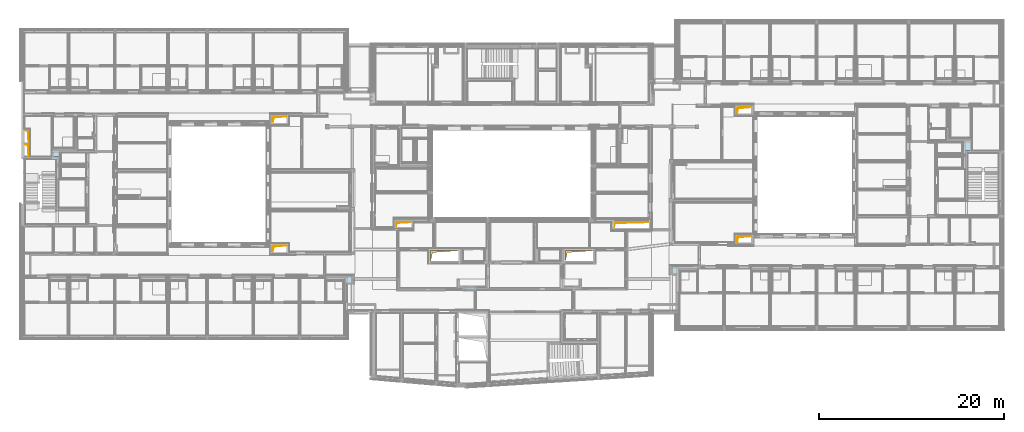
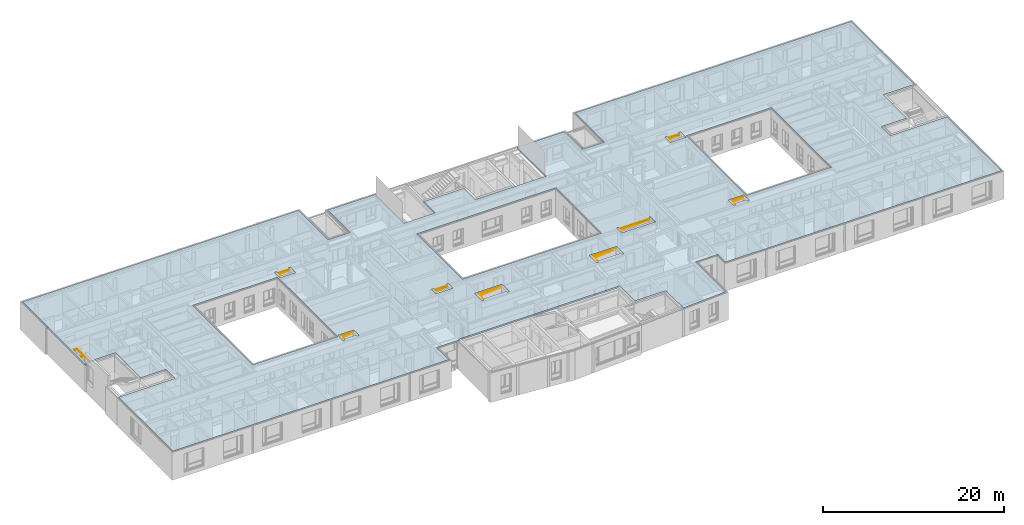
# One storey, part 8 of 222: 10 windows, 1 slab, 10 openings.
"""IFC4 building model written with IfcOpenShell, lengths in metres."""

import ifcopenshell
import ifcopenshell.guid

model = None  # the IFC model being written
_history = None  # IfcOwnerHistory: only IFC2X3 demands one
_inside = {}  # id of a spatial element -> (the spatial element, [elements in it])
_under = {}  # id of a project, library or spatial element -> (it, [spatial elements below it])
_declared = {}  # id of a project -> (the project, [libraries it declares])
_typed = {}  # id of a type object -> (the type object, [elements of that type])
_made_of = {}  # id of a material, layer set ... -> (it, [elements and type objects made of it])


def new_model(schema):
    """Start an empty IFC model of exactly this schema.

    Asked for "IFC4X3", IfcOpenShell would pick the latest addendum, in which some entities
    have other attributes; the version numbers below select the first issue.
    IFC2X3 requires an IfcOwnerHistory on every rooted entity: one is made here for all.
    """
    global model, _history
    if schema == "IFC4X3":
        model = ifcopenshell.file(schema_version=(4, 3, 0, 0))
    else:
        model = ifcopenshell.file(schema=schema)
    _inside.clear()
    _under.clear()
    _declared.clear()
    _typed.clear()
    _made_of.clear()
    _history = None
    if model.schema == "IFC2X3":
        org = make("IfcOrganization", Name="unknown")
        user = make(
            "IfcPersonAndOrganization",
            ThePerson=make("IfcPerson", FamilyName="unknown"),
            TheOrganization=org,
        )
        app = make(
            "IfcApplication",
            ApplicationDeveloper=org,
            Version="unknown",
            ApplicationFullName="unknown",
            ApplicationIdentifier="unknown",
        )
        _history = make(
            "IfcOwnerHistory",
            OwningUser=user,
            OwningApplication=app,
            ChangeAction="ADDED",
            CreationDate=0,
        )
    return model


def make(cls, **values):
    """One entity of the class cls with the attributes given. An attribute that is None is left unset."""
    return model.create_entity(
        cls, **{name: value for name, value in values.items() if value is not None}
    )


def entity(cls, *values):
    """Any entity or typed value of the class cls, its attributes in the order of the schema. None: left unset."""
    e = model.create_entity(cls)
    for i, value in enumerate(values):
        if value is not None:
            e[i] = value
    return e


def rooted(cls, **values):
    """An entity with a GlobalId (a new one), such as an element, a storey or a relation."""
    return make(cls, GlobalId=ifcopenshell.guid.new(), OwnerHistory=_history, **values)


def si_unit(unit_type, name, prefix=None):
    """IfcSIUnit, for example si_unit("LENGTHUNIT", "METRE", prefix="MILLI")."""
    return make("IfcSIUnit", UnitType=unit_type, Prefix=prefix, Name=name)


def converted_unit(unit_type, name, factor, base, dimensions=None, offset=None):
    """IfcConversionBasedUnit, such as the inch: factor (a typed value) times the base unit."""
    return make(
        "IfcConversionBasedUnit"
        if offset is None
        else "IfcConversionBasedUnitWithOffset",
        ConversionOffset=offset,
        Dimensions=None
        if dimensions is None
        else entity("IfcDimensionalExponents", *dimensions),
        UnitType=unit_type,
        Name=name,
        ConversionFactor=make(
            "IfcMeasureWithUnit", ValueComponent=factor, UnitComponent=base
        ),
    )


def derived_unit(unit_type, elements):
    """IfcDerivedUnit: a product of units, each with its exponent."""
    return make(
        "IfcDerivedUnit",
        Elements=[
            make("IfcDerivedUnitElement", Unit=unit, Exponent=power)
            for unit, power in elements
        ],
        UnitType=unit_type,
    )


def assignment(units):
    """IfcUnitAssignment: the units of a project."""
    return None if units is None else make("IfcUnitAssignment", Units=units)


def point(xyz):
    """IfcCartesianPoint."""
    return None if xyz is None else make("IfcCartesianPoint", Coordinates=xyz)


def direction(xyz):
    """IfcDirection."""
    return None if xyz is None else make("IfcDirection", DirectionRatios=xyz)


def frame(location, z_axis=None, x_axis=None):
    """IfcAxis2Placement3D, a coordinate frame: its origin and axes. An axis left out is left unset."""
    return make(
        "IfcAxis2Placement3D",
        Location=point(location),
        Axis=direction(z_axis),
        RefDirection=direction(x_axis),
    )


def frame_2d(location, x_axis=None):
    """IfcAxis2Placement2D, a coordinate frame in the plane: its origin and x axis."""
    return make(
        "IfcAxis2Placement2D", Location=point(location), RefDirection=direction(x_axis)
    )


def origin():
    """The frame at (0, 0, 0) with its axes left unset."""
    return frame((0.0, 0.0, 0.0))


def origin_with_axes():
    """The frame at (0, 0, 0) with the z axis (0, 0, 1) and the x axis (1, 0, 0) written out."""
    return frame((0.0, 0.0, 0.0), z_axis=(0.0, 0.0, 1.0), x_axis=(1.0, 0.0, 0.0))


def place(relative_to, where):
    """IfcLocalPlacement: puts the frame where relative to a parent placement (None: the world)."""
    return make(
        "IfcLocalPlacement", PlacementRelTo=relative_to, RelativePlacement=where
    )


def context(
    kind, dimensions, precision=None, world=None, true_north=None, identifier=None
):
    """IfcGeometricRepresentationContext, for example the 3D "Model" context."""
    return make(
        "IfcGeometricRepresentationContext",
        ContextIdentifier=identifier,
        ContextType=kind,
        CoordinateSpaceDimension=dimensions,
        Precision=precision,
        WorldCoordinateSystem=world,
        TrueNorth=true_north,
    )


def subcontext(parent, identifier, kind, view, scale=None):
    """IfcGeometricRepresentationSubContext, for example "Body" below "Model"."""
    return make(
        "IfcGeometricRepresentationSubContext",
        ContextIdentifier=identifier,
        ContextType=kind,
        ParentContext=parent,
        TargetScale=scale,
        TargetView=view,
    )


def project(units=None, contexts=None):
    """IfcProject with its units and contexts."""
    return rooted(
        "IfcProject",
        Name="project",
        RepresentationContexts=contexts,
        UnitsInContext=assignment(units),
    )


def spatial(cls, under=None, at=None, **own):
    """A site, building, storey or space (cls), placed at a placement, below another one or the project."""
    s = rooted(cls, ObjectPlacement=at, **own)
    if under is not None:
        _under.setdefault(under.id(), (under, []))[1].append(s)
    return s


def polyline(points):
    """IfcPolyline through the points."""
    return make("IfcPolyline", Points=[point(p) for p in points])


def profile(cls, at=None, kind="AREA", **sizes):
    """A parametric profile (cls). Its sizes go by their IFC names, for example OverallWidth=200.0."""
    return make(cls, ProfileType=kind, Position=at, **sizes)


def rectangle(**sizes):
    """IfcRectangleProfileDef."""
    return profile("IfcRectangleProfileDef", **sizes)


def outline(outer, holes=None, kind="AREA"):
    """IfcArbitraryClosedProfileDef: a profile drawn as a closed curve; with holes, ...WithVoids."""
    if holes is None:
        return make("IfcArbitraryClosedProfileDef", ProfileType=kind, OuterCurve=outer)
    return make(
        "IfcArbitraryProfileDefWithVoids",
        ProfileType=kind,
        OuterCurve=outer,
        InnerCurves=holes,
    )


def extrude(swept, where, along, depth):
    """IfcExtrudedAreaSolid: the profile swept, set in the frame where, extruded along a direction by depth."""
    return make(
        "IfcExtrudedAreaSolid",
        SweptArea=swept,
        Position=where,
        ExtrudedDirection=direction(along),
        Depth=depth,
    )


def faces_of(points, faces, orient=None, outer=None):
    """IfcFace entities. A face is a list of loops; a loop is a list of indices into points, from 0.

    orient and outer hold one flag for each loop. By default every Orientation is true, the
    first loop of a face is its IfcFaceOuterBound and the others are IfcFaceBound.
    """
    made = []
    for i, loops in enumerate(faces):
        bounds = []
        for j, loop in enumerate(loops):
            is_outer = j == 0 if outer is None else outer[i][j]
            bounds.append(
                make(
                    "IfcFaceOuterBound" if is_outer else "IfcFaceBound",
                    Bound=make("IfcPolyLoop", Polygon=[points[k] for k in loop]),
                    Orientation=True if orient is None else orient[i][j],
                )
            )
        made.append(make("IfcFace", Bounds=bounds))
    return made


def open_shell(faces, orient=None, outer=None):
    """The faces of one IfcOpenShell. surface_model builds it on its shared points."""
    return ("IfcOpenShell", faces, orient, outer)


def surface_model(cls, points, shells):
    """IfcFaceBasedSurfaceModel or IfcShellBasedSurfaceModel (cls): surfaces that need not close."""
    shared = [point(p) for p in points]
    made = [make(c, CfsFaces=faces_of(shared, fs, o, b)) for c, fs, o, b in shells]
    if cls == "IfcFaceBasedSurfaceModel":
        return make(cls, FbsmFaces=made)
    return make(cls, SbsmBoundary=made)


def shape(context_of_items, identifier, shape_type, items):
    """IfcShapeRepresentation: the items that make up one representation, for example the "Body"."""
    return make(
        "IfcShapeRepresentation",
        ContextOfItems=context_of_items,
        RepresentationIdentifier=identifier,
        RepresentationType=shape_type,
        Items=items,
    )


def source(mapping_origin, context_of_items, identifier, shape_type, items):
    """IfcRepresentationMap: a shape defined once, which mapped items show again and again."""
    return make(
        "IfcRepresentationMap",
        MappingOrigin=mapping_origin,
        MappedRepresentation=shape(context_of_items, identifier, shape_type, items),
    )


def transform(
    local_origin,
    x_axis=None,
    y_axis=None,
    z_axis=None,
    scale=None,
    scale2=None,
    scale3=None,
    uniform=True,
):
    """IfcCartesianTransformationOperator3D, or its non-uniform kind. x_axis, y_axis, z_axis: its Axis1, 2, 3."""
    if uniform:
        return make(
            "IfcCartesianTransformationOperator3D",
            Axis1=direction(x_axis),
            Axis2=direction(y_axis),
            LocalOrigin=point(local_origin),
            Scale=scale,
            Axis3=direction(z_axis),
        )
    return make(
        "IfcCartesianTransformationOperator3DnonUniform",
        Axis1=direction(x_axis),
        Axis2=direction(y_axis),
        LocalOrigin=point(local_origin),
        Scale=scale,
        Axis3=direction(z_axis),
        Scale2=scale2,
        Scale3=scale3,
    )


def mapped(mapping_source, mapping_target):
    """IfcMappedItem: shows the shape of a source again, moved by a transform."""
    return make(
        "IfcMappedItem", MappingSource=mapping_source, MappingTarget=mapping_target
    )


def material(Name=None, Category=None):
    """IfcMaterial."""
    return make("IfcMaterial", Name=Name, Category=Category)


def made_of(thing, what):
    """Note that an element or type object is made of a material, layer set ...; save() writes the relation."""
    if what is not None:
        _made_of.setdefault(what.id(), (what, []))[1].append(thing)
    return thing


def element(
    cls,
    number,
    at=None,
    inside=None,
    cuts=None,
    type_object=None,
    material=None,
    context=None,
    identifier="Body",
    shape_type=None,
    held_by="IfcProductDefinitionShape",
    body=None,
    shapes=None,
    **own,
):
    """One element of the class cls, such as IfcWall. Its Tag is "e" and its number.

    at: its placement. inside: the storey or other place that contains it. cuts: it is an
    opening in that element (IfcRelVoidsElement). A single representation is given by context,
    identifier, shape_type and body (its items); several are given by shapes. held_by: the class
    of the entity that holds the representations. save() writes the other relations.
    """
    e = rooted(cls, Tag="e%d" % number, ObjectPlacement=at, **own)
    if body is not None:
        shapes = [shape(context, identifier, shape_type, body)]
    if shapes is not None:
        e.Representation = make(held_by, Representations=shapes)
    if inside is not None:
        _inside.setdefault(inside.id(), (inside, []))[1].append(e)
    if cuts is not None:
        rooted(
            "IfcRelVoidsElement", RelatingBuildingElement=cuts, RelatedOpeningElement=e
        )
    if type_object is not None:
        _typed.setdefault(type_object.id(), (type_object, []))[1].append(e)
    return made_of(e, material)


def fill(opening, filler):
    """IfcRelFillsElement: the door or window that sits in an opening."""
    return rooted(
        "IfcRelFillsElement",
        RelatingOpeningElement=opening,
        RelatedBuildingElement=filler,
    )


def aggregate(whole, parts):
    """IfcRelAggregates: a whole, such as a stair, and the parts it consists of."""
    return rooted("IfcRelAggregates", RelatingObject=whole, RelatedObjects=parts)


def save(model, path):
    """Write the relations noted so far, then the file.

    IfcRelAggregates (storeys below a building ...), IfcRelContainedInSpatialStructure (elements
    in a storey), IfcRelDefinesByType, IfcRelAssociatesMaterial and IfcRelDeclares: one each for
    every whole, place, type object, material and project.
    """
    for whole, parts in _under.values():
        aggregate(whole, parts)
    for where, things in _inside.values():
        rooted(
            "IfcRelContainedInSpatialStructure",
            RelatedElements=things,
            RelatingStructure=where,
        )
    for kind, things in _typed.values():
        rooted("IfcRelDefinesByType", RelatedObjects=things, RelatingType=kind)
    for what, things in _made_of.values():
        rooted("IfcRelAssociatesMaterial", RelatedObjects=things, RelatingMaterial=what)
    for by, libraries in _declared.values():
        rooted("IfcRelDeclares", RelatingContext=by, RelatedDefinitions=libraries)
    model.write(path)


model = new_model("IFC4")

# Units and contexts
model_context = context("Model", 3, precision=1e-05, world=origin())
body_context = subcontext(model_context, "Body", "Model", "MODEL_VIEW")
ifc_project = project(units=[si_unit("LENGTHUNIT", "METRE"), si_unit("AREAUNIT", "SQUARE_METRE"), si_unit("VOLUMEUNIT", "CUBIC_METRE"), si_unit("MASSUNIT", "GRAM", prefix="KILO"), converted_unit("PLANEANGLEUNIT", "DEGREE", entity("IfcPlaneAngleMeasure", 0.0174532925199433), si_unit("PLANEANGLEUNIT", "RADIAN"), dimensions=[0, 0, 0, 0, 0, 0, 0]), derived_unit("THERMALTRANSMITTANCEUNIT", [(si_unit("POWERUNIT", "WATT"), 1), (si_unit("THERMODYNAMICTEMPERATUREUNIT", "KELVIN"), -1), (si_unit("LENGTHUNIT", "METRE"), -2)]), derived_unit("VOLUMETRICFLOWRATEUNIT", [(si_unit("LENGTHUNIT", "METRE"), 3), (converted_unit("TIMEUNIT", "hour", entity("IfcTimeMeasure", 3600.0), si_unit("TIMEUNIT", "SECOND"), dimensions=[0, 0, 1, 0, 0, 0, 0]), -1), (si_unit("LENGTHUNIT", "METRE"), -1)])], contexts=[model_context])

# Site, building, storey
site_placement = place(None, origin())
site = spatial("IfcSite", under=ifc_project, at=site_placement, Name="Psychiatrie Neubau Wunstorf", CompositionType="ELEMENT")
building_placement = place(site_placement, origin())
building = spatial("IfcBuilding", under=site, at=building_placement, Name="Neubau H2 Stationsgebäude", CompositionType="ELEMENT")
storey_placement = place(building_placement, frame((0.0, 0.0, 3.6)))
storey = spatial("IfcBuildingStorey", under=building, at=storey_placement, Name="H2 Ebene +1", CompositionType="ELEMENT", Elevation=3.6)

# Slab, openings, windows
ifc_material = material(Name="H")
slab_placement = place(storey_placement, frame((-0.121000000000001, -6.68026438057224, 3.55)))
slab = element("IfcSlab", 1, at=slab_placement, inside=storey, material=ifc_material, PredefinedType="FLOOR", context=body_context, shape_type="SweptSolid", body=[
    extrude(outline(polyline([(44.0709950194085, 7.20526438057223), (47.5709890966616, 7.20526438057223), (47.5709890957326, 7.20478156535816), (55.5106630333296, 7.20478156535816), (58.3989901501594, 7.20528156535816), (58.3989901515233, 7.20478156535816), (58.6489901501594, 7.20478156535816), (58.649000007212, 3.84177306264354), (62.620793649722, 3.84177306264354), (62.620793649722, 0.0), (68.206, 0.358673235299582), (68.206, 7.02026407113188), (71.036, 7.02026407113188), (71.036, 5.32026438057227), (106.206, 5.32026438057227), (106.206, 17.3052642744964), (98.9909999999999, 17.3052642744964), (98.9909999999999, 19.3052642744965), (102.241, 19.3052642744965), (102.241, 24.5052643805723), (106.206, 24.5052643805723), (106.206, 38.4902643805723), (71.036, 38.4902643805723), (71.036, 31.9902643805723), (68.206, 31.9902643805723), (68.206, 35.9402640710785), (62.1835, 35.9402640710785), (62.1835, 29.5442643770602), (53.171, 29.5442643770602), (53.171, 32.0652643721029), (48.021, 32.0652643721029), (48.021, 29.5442643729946), (44.0585, 29.5442643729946), (44.0585, 35.9402640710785), (38.0335036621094, 35.9402701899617), (38.0335036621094, 30.9902704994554), (35.206, 30.9902643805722), (35.206, 37.4902643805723), (0.0360000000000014, 37.4902643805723), (0.0360000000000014, 32.0695269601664), (0.0, 32.0695269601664), (0.0, 23.6252642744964), (0.151000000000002, 23.6252642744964), (0.151000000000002, 23.8752642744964), (4.001, 23.8752642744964), (4.001, 18.3052582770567), (7.2509987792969, 18.3052582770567), (7.2509987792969, 18.0552642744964), (7.251, 18.0552642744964), (7.251, 16.5552642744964), (7.2509987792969, 16.5552642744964), (7.2509987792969, 16.3052642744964), (0.0360000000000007, 16.3052642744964), (0.0360000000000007, 4.32026438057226), (35.206, 4.32026438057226), (35.206, 7.02026407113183), (38.1509998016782, 7.02026407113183), (38.1509901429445, 7.20478156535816), (38.1509901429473, 7.20478431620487), (38.4009901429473, 7.20478431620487), (38.4009901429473, 7.20478156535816), (40.7509889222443, 7.20478156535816), (40.7509889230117, 7.20528650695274), (44.0709950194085, 7.20528650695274), (44.0709950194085, 7.20526438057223)]), holes=[polyline([(44.2560000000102, 27.0702624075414), (61.9860000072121, 27.0702624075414), (61.9860000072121, 16.9902640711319), (44.2560000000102, 16.9902640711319), (44.2560000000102, 27.0702624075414)]), polyline([(15.956, 14.2902643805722), (15.956, 27.5202643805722), (26.786, 27.5202643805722), (26.786, 14.2902643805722), (15.956, 14.2902643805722)]), polyline([(79.456, 28.5202643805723), (90.286, 28.5202643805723), (90.286, 15.2902643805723), (79.456, 15.2902643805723), (79.456, 28.5202643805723)]), polyline([(58.671000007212, 12.3277640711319), (58.671000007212, 13.9552640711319), (62.171000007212, 13.9552640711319), (62.171000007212, 12.3277640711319), (61.9209889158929, 12.3277640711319), (61.9209889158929, 12.5777647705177), (58.9209889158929, 12.5777647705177), (58.9209889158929, 12.3277640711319), (58.671000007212, 12.3277640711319)]), polyline([(47.3210000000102, 12.5777647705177), (44.3210000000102, 12.5777647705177), (44.3210000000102, 12.3277718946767), (44.0710000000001, 12.3277718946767), (44.0710000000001, 13.6907666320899), (44.0710000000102, 13.955264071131), (47.5710000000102, 13.9552640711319), (47.5710000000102, 12.327764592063), (47.5709989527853, 12.327764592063), (47.5709989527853, 12.3277718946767), (47.3210000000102, 12.3277718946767), (47.3210000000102, 12.5777647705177)]), polyline([(63.931000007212, 15.9152640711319), (63.931000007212, 17.026262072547), (64.181000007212, 17.0262640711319), (64.1809889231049, 16.7762635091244), (67.9809889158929, 16.7762635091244), (67.981, 17.0262640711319), (68.2309950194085, 17.0262640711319), (68.2309950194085, 15.9152640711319), (63.931000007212, 15.9152640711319)]), polyline([(26.971, 14.5052643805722), (28.971, 14.5052643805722), (28.971, 13.3222643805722), (28.721, 13.3222643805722), (28.7209934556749, 13.5722650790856), (27.2209934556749, 13.5722650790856), (27.221, 13.3222643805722), (26.971, 13.3222643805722), (26.971, 14.5052643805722)]), polyline([(26.971, 28.4862643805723), (27.221, 28.4862643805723), (27.221, 28.2362763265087), (28.721, 28.2362763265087), (28.721, 28.4862643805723), (28.971, 28.4862643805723), (28.971, 27.3052643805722), (26.971, 27.3052643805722), (26.971, 28.4862643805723)]), polyline([(77.521, 29.4862643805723), (77.521, 29.2362652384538), (79.021, 29.2362652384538), (79.021, 29.4862643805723), (79.271, 29.4862643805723), (79.271, 28.3052643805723), (77.271, 28.3052643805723), (77.271, 29.4862643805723), (77.521, 29.4862643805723)]), polyline([(42.470951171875, 17.0262640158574), (42.470951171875, 16.0152606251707), (40.320951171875, 16.0152606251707), (40.3209461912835, 17.0262671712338), (40.570951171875, 17.0262641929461), (40.570951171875, 16.7762717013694), (42.220951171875, 16.7762717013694), (42.220951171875, 17.0262644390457), (42.470951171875, 17.0262640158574)]), polyline([(77.271, 15.5052643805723), (79.271, 15.5052643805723), (79.271, 14.3177643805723), (79.021, 14.3177643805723), (79.0209889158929, 14.5677638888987), (79.021, 15.2552643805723), (77.521, 15.2552643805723), (77.5209889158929, 14.5677638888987), (77.521, 14.3177643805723), (77.271, 14.3177643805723), (77.271, 15.5052643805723)])]), origin_with_axes(), (0.0, 0.0, 1.0), 0.2),
])
opening_1_placement = place(slab_placement, frame((27.2210011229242, 27.5552497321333, 0.0)))
opening_1 = element("IfcOpeningElement", 2, at=opening_1_placement, cuts=slab, Name="Deckendurchbruch", ObjectType="Opening", context=body_context, shape_type="SweptSolid", body=[
    extrude(rectangle(XDim=0.681011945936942, YDim=1.5, at=frame_2d((0.0, 0.0), x_axis=(-1.24478061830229e-06, -0.999999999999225))), frame((0.750000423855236, 0.340505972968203, 0.0), z_axis=(0.0, 0.0, 1.0), x_axis=(1.0, 0.0, 0.0)), (0.0, 0.0, 1.0), 0.2),
])
opening_2_placement = place(slab_placement, frame((64.1809889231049, 16.1652656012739, 0.0)))
opening_2 = element("IfcOpeningElement", 3, at=opening_2_placement, cuts=slab, Name="Deckendurchbruch", ObjectType="Opening", context=body_context, shape_type="SweptSolid", body=[
    extrude(rectangle(XDim=0.610997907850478, YDim=3.79999999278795, at=frame_2d((0.0, 0.0), x_axis=(0.0, -1.0))), frame((1.89999999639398, 0.30549895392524, 0.0), z_axis=(0.0, 0.0, 1.0), x_axis=(1.0, 0.0, 0.0)), (0.0, 0.0, 1.0), 0.2),
])
opening_3_placement = place(slab_placement, frame((58.9209889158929, 12.5777647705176, 0.0)))
opening_3 = element("IfcOpeningElement", 4, at=opening_3_placement, cuts=slab, Name="Deckendurchbruch", ObjectType="Opening", context=body_context, shape_type="SweptSolid", body=[
    extrude(rectangle(XDim=1.12749716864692, YDim=3.0, at=frame_2d((0.0, 0.0), x_axis=(0.0, -1.0))), frame((1.5, 0.56374858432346, 0.0), z_axis=(0.0, 0.0, 1.0), x_axis=(1.0, 0.0, 0.0)), (0.0, 0.0, 1.0), 0.2),
])
opening_4_placement = place(slab_placement, frame((44.3209950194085, 12.5777647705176, 0.0)))
opening_4 = element("IfcOpeningElement", 5, at=opening_4_placement, cuts=slab, Name="Deckendurchbruch", ObjectType="Opening", context=body_context, shape_type="SweptSolid", body=[
    extrude(rectangle(XDim=1.12749716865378, YDim=3.0, at=frame_2d((0.0, 0.0), x_axis=(-3.48859128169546e-06, -0.999999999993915))), frame((1.5000019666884, 0.56374858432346, 0.0), z_axis=(0.0, 0.0, 1.0), x_axis=(1.0, 0.0, 0.0)), (0.0, 0.0, 1.0), 0.2),
])
opening_5_placement = place(slab_placement, frame((77.5209889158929, 14.5677638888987, 0.0)))
opening_5 = element("IfcOpeningElement", 6, at=opening_5_placement, cuts=slab, Name="Deckendurchbruch", ObjectType="Opening", context=body_context, shape_type="SweptSolid", body=[
    extrude(outline(polyline([(-0.749994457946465, 0.343750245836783), (-0.750005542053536, -0.343750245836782), (0.749994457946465, -0.343750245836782), (0.750005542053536, 0.343750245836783), (-0.749994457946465, 0.343750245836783)])), frame((0.750005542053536, 0.343750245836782, 0.0), z_axis=(0.0, 0.0, 1.0), x_axis=(1.0, 0.0, 0.0)), (0.0, 0.0, 1.0), 0.2),
])
opening_6_placement = place(slab_placement, frame((0.290000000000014, 25.3752639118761, 0.0)))
opening_6 = element("IfcOpeningElement", 7, at=opening_6_placement, cuts=slab, Name="Deckendurchbruch", ObjectType="Opening", context=body_context, shape_type="SweptSolid", body=[
    extrude(rectangle(XDim=0.479999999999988, YDim=1.38, at=frame_2d((0.0, 0.0), x_axis=(-1.0, 0.0))), frame((0.239999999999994, 0.689999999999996, 0.0), z_axis=(0.0, 0.0, 1.0), x_axis=(1.0, 0.0, 0.0)), (0.0, 0.0, 1.0), 0.2),
])
opening_7_placement = place(slab_placement, frame((0.290000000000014, 23.9052639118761, 0.0)))
opening_7 = element("IfcOpeningElement", 8, at=opening_7_placement, cuts=slab, Name="Deckendurchbruch", ObjectType="Opening", context=body_context, shape_type="SweptSolid", body=[
    extrude(rectangle(XDim=0.479999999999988, YDim=1.32, at=frame_2d((0.0, 0.0), x_axis=(-1.0, 0.0))), frame((0.239999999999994, 0.659999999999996, 0.0), z_axis=(0.0, 0.0, 1.0), x_axis=(1.0, 0.0, 0.0)), (0.0, 0.0, 1.0), 0.2),
])
opening_8_placement = place(slab_placement, frame((27.2209889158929, 13.572262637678, 0.0)))
opening_8 = element("IfcOpeningElement", 9, at=opening_8_placement, cuts=slab, Name="Deckendurchbruch", ObjectType="Opening", context=body_context, shape_type="SweptSolid", body=[
    extrude(rectangle(XDim=0.682999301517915, YDim=1.5, at=frame_2d((0.0, 0.0), x_axis=(-9.58174490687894e-06, -0.999999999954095))), frame((0.750003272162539, 0.341499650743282, 0.0), z_axis=(0.0, 0.0, 1.0), x_axis=(1.0, 0.0, 0.0)), (0.0, 0.0, 1.0), 0.2),
])
opening_9_placement = place(slab_placement, frame((40.5709461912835, 16.2652533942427, 0.0)))
opening_9 = element("IfcOpeningElement", 10, at=opening_9_placement, cuts=slab, Name="Deckendurchbruch", ObjectType="Opening", context=body_context, shape_type="SweptSolid", body=[
    extrude(rectangle(XDim=0.511018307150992, YDim=1.65, at=frame_2d((0.0, 0.0), x_axis=(-9.74640507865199e-06, -0.999999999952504))), frame((0.825002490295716, 0.25550915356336, 0.0), z_axis=(0.0, 0.0, 1.0), x_axis=(1.0, 0.0, 0.0)), (0.0, 0.0, 1.0), 0.2),
])
opening_10_placement = place(slab_placement, frame((77.521, 28.5552497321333, 0.0)))
opening_10 = element("IfcOpeningElement", 11, at=opening_10_placement, cuts=slab, Name="Deckendurchbruch", ObjectType="Opening", context=body_context, shape_type="SweptSolid", body=[
    extrude(rectangle(XDim=0.681015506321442, YDim=1.5, at=frame_2d((0.0, 0.0), x_axis=(1.64889663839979e-06, -0.999999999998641))), frame((0.75000056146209, 0.340507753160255, 0.0), z_axis=(0.0, 0.0, 1.0), x_axis=(1.0, 0.0, 0.0)), (0.0, 0.0, 1.0), 0.2),
])
shared_shape_1 = source(origin_with_axes(), body_context, "Body", "SurfaceModel", [
    surface_model("IfcShellBasedSurfaceModel", [(1.50000084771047, 0.681011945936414, 0.0), (8.47710469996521e-07, 0.681011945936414, 0.0), (0.0, 0.0, 0.0), (0.12038781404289, 0.560624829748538, 0.0)], [open_shell([[[0, 1, 2, 3]]], orient=[[False]])]),
    surface_model("IfcShellBasedSurfaceModel", [(1.50000084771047, 0.681011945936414, 0.2), (8.47710469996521e-07, 0.681011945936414, 0.2), (0.0, 0.0, 0.2), (0.12038781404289, 0.560624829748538, 0.2)], [open_shell([[[0, 1, 2, 3]]], orient=[[False]])]),
])
window_1_placement = place(opening_1_placement, origin())
window_1 = element("IfcWindow", 12, at=window_1_placement, inside=storey, Name="Symbol BD", OverallHeight=0.68101, OverallWidth=1.5, PartitioningType="USERDEFINED", PredefinedType="SKYLIGHT", context=body_context, shape_type="MappedRepresentation", body=[
    mapped(shared_shape_1, transform((0.0, 0.0, 0.0), x_axis=(1.0, 0.0, 0.0), y_axis=(0.0, 1.0, 0.0), z_axis=(0.0, 0.0, 1.0), scale=1.0)),
])
fill(opening_1, window_1)
shared_shape_2 = source(origin_with_axes(), body_context, "Body", "SurfaceModel", [
    surface_model("IfcShellBasedSurfaceModel", [(3.79999999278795, 0.610997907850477, 0.0), (0.0, 0.610997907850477, 0.0), (0.0, 0.0, 0.0), (0.108010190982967, 0.50298771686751, 0.0)], [open_shell([[[0, 1, 2, 3]]], orient=[[False]])]),
    surface_model("IfcShellBasedSurfaceModel", [(3.79999999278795, 0.610997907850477, 0.2), (0.0, 0.610997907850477, 0.2), (0.0, 0.0, 0.2), (0.108010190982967, 0.50298771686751, 0.2)], [open_shell([[[0, 1, 2, 3]]], orient=[[False]])]),
])
window_2_placement = place(opening_2_placement, origin())
window_2 = element("IfcWindow", 13, at=window_2_placement, inside=storey, Name="Symbol BD", OverallHeight=0.611, OverallWidth=3.8, PartitioningType="USERDEFINED", PredefinedType="SKYLIGHT", context=body_context, shape_type="MappedRepresentation", body=[
    mapped(shared_shape_2, transform((0.0, 0.0, 0.0), x_axis=(1.0, 0.0, 0.0), y_axis=(0.0, 1.0, 0.0), z_axis=(0.0, 0.0, 1.0), scale=0.999999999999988)),
])
fill(opening_2, window_2)
shared_shape_3 = source(origin_with_axes(), body_context, "Body", "SurfaceModel", [
    surface_model("IfcShellBasedSurfaceModel", [(3.00000393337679, 1.12749716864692, 0.0), (3.93337679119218e-06, 1.12749716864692, 0.0), (0.0, 0.0, 0.0), (0.19931880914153, 0.92818159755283, 0.0)], [open_shell([[[0, 1, 2, 3]]], orient=[[False]])]),
    surface_model("IfcShellBasedSurfaceModel", [(3.00000393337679, 1.12749716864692, 0.2), (3.93337679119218e-06, 1.12749716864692, 0.2), (0.0, 0.0, 0.2), (0.19931880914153, 0.92818159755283, 0.2)], [open_shell([[[0, 1, 2, 3]]], orient=[[False]])]),
])
window_3_placement = place(opening_3_placement, origin())
window_3 = element("IfcWindow", 14, at=window_3_placement, inside=storey, Name="Symbol BD", OverallHeight=1.1275, OverallWidth=3.0, PartitioningType="USERDEFINED", PredefinedType="SKYLIGHT", context=body_context, shape_type="MappedRepresentation", body=[
    mapped(shared_shape_3, transform((0.0, 0.0, 0.0), x_axis=(1.0, 0.0, 0.0), y_axis=(0.0, 1.0, 0.0), z_axis=(0.0, 0.0, 1.0), scale=1.0)),
])
fill(opening_3, window_3)
window_4_placement = place(opening_4_placement, origin())
window_4 = element("IfcWindow", 15, at=window_4_placement, inside=storey, Name="Symbol BD", OverallHeight=1.1275, OverallWidth=3.0, PartitioningType="USERDEFINED", PredefinedType="SKYLIGHT", context=body_context, shape_type="MappedRepresentation", body=[
    mapped(shared_shape_3, transform((0.0, 0.0, 0.0), x_axis=(1.0, 0.0, 0.0), y_axis=(0.0, 1.0, 0.0), z_axis=(0.0, 0.0, 1.0), scale=1.0)),
])
fill(opening_4, window_4)
shared_shape_4 = source(origin_with_axes(), body_context, "Body", "SurfaceModel", [
    surface_model("IfcShellBasedSurfaceModel", [(1.50001108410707, 0.687500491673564, 0.0), (1.10841070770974e-05, 0.687500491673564, 0.0), (0.0, 0.0, 0.0), (0.121544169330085, 0.565965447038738, 0.0)], [open_shell([[[0, 1, 2, 3]]], orient=[[False]])]),
    surface_model("IfcShellBasedSurfaceModel", [(1.50001108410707, 0.687500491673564, 0.2), (1.10841070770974e-05, 0.687500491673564, 0.2), (0.0, 0.0, 0.2), (0.121544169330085, 0.565965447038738, 0.2)], [open_shell([[[0, 1, 2, 3]]], orient=[[False]])]),
])
window_5_placement = place(opening_5_placement, origin())
window_5 = element("IfcWindow", 16, at=window_5_placement, inside=storey, Name="Symbol BD", OverallHeight=0.6875, OverallWidth=1.50001, PartitioningType="USERDEFINED", PredefinedType="SKYLIGHT", context=body_context, shape_type="MappedRepresentation", body=[
    mapped(shared_shape_4, transform((0.0, 0.0, 0.0), x_axis=(1.0, 0.0, 0.0), y_axis=(0.0, 1.0, 0.0), z_axis=(0.0, 0.0, 1.0), scale=1.0)),
])
fill(opening_5, window_5)
shared_shape_5 = source(origin_with_axes(), body_context, "Body", "SurfaceModel", [
    surface_model("IfcShellBasedSurfaceModel", [(1.38, 0.479999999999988, 0.0), (0.0, 0.479999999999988, 0.0), (0.0, 0.0, 0.0), (0.0848528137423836, 0.395147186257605, 0.0)], [open_shell([[[0, 1, 2, 3]]], orient=[[False]])]),
    surface_model("IfcShellBasedSurfaceModel", [(1.38, 0.479999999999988, 0.2), (0.0, 0.479999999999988, 0.2), (0.0, 0.0, 0.2), (0.0848528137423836, 0.395147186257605, 0.2)], [open_shell([[[0, 1, 2, 3]]], orient=[[False]])]),
])
window_6_placement = place(opening_6_placement, frame((0.0, 1.37999999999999, 0.0), z_axis=(0.0, 0.0, 1.0), x_axis=(1.22464679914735e-16, -1.0, 0.0)))
window_6 = element("IfcWindow", 17, at=window_6_placement, inside=storey, Name="Symbol BD", OverallHeight=0.48, OverallWidth=1.38, PartitioningType="USERDEFINED", PredefinedType="SKYLIGHT", context=body_context, shape_type="MappedRepresentation", body=[
    mapped(shared_shape_5, transform((0.0, 0.0, 0.0), x_axis=(1.0, 0.0, 0.0), y_axis=(0.0, 1.0, 0.0), z_axis=(0.0, 0.0, 1.0), scale=1.0)),
])
fill(opening_6, window_6)
shared_shape_6 = source(origin_with_axes(), body_context, "Body", "SurfaceModel", [
    surface_model("IfcShellBasedSurfaceModel", [(1.32, 0.479999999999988, 0.0), (0.0, 0.479999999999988, 0.0), (0.0, 0.0, 0.0), (0.0848528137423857, 0.395147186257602, 0.0)], [open_shell([[[0, 1, 2, 3]]], orient=[[False]])]),
    surface_model("IfcShellBasedSurfaceModel", [(1.32, 0.479999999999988, 0.2), (0.0, 0.479999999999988, 0.2), (0.0, 0.0, 0.2), (0.0848528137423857, 0.395147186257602, 0.2)], [open_shell([[[0, 1, 2, 3]]], orient=[[False]])]),
])
window_7_placement = place(opening_7_placement, frame((0.0, 1.31999999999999, 0.0), z_axis=(0.0, 0.0, 1.0), x_axis=(1.22464679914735e-16, -1.0, 0.0)))
window_7 = element("IfcWindow", 18, at=window_7_placement, inside=storey, Name="Symbol BD", OverallHeight=0.48, OverallWidth=1.32, PartitioningType="USERDEFINED", PredefinedType="SKYLIGHT", context=body_context, shape_type="MappedRepresentation", body=[
    mapped(shared_shape_6, transform((0.0, 0.0, 0.0), x_axis=(1.0, 0.0, 0.0), y_axis=(0.0, 1.0, 0.0), z_axis=(0.0, 0.0, 1.0), scale=1.0)),
])
fill(opening_7, window_7)
shared_shape_7 = source(origin_with_axes(), body_context, "Body", "SurfaceModel", [
    surface_model("IfcShellBasedSurfaceModel", [(1.50000654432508, 0.682999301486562, 0.0), (6.54432507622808e-06, 0.682999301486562, 0.0), (0.0, 0.0, 0.0), (0.120744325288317, 0.562260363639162, 0.0)], [open_shell([[[0, 1, 2, 3]]], orient=[[False]])]),
    surface_model("IfcShellBasedSurfaceModel", [(1.50000654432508, 0.682999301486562, 0.2), (6.54432507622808e-06, 0.682999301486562, 0.2), (0.0, 0.0, 0.2), (0.120744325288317, 0.562260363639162, 0.2)], [open_shell([[[0, 1, 2, 3]]], orient=[[False]])]),
])
window_8_placement = place(opening_8_placement, origin())
window_8 = element("IfcWindow", 19, at=window_8_placement, inside=storey, Name="Symbol BD", OverallHeight=0.683, OverallWidth=1.50001, PartitioningType="USERDEFINED", PredefinedType="SKYLIGHT", context=body_context, shape_type="MappedRepresentation", body=[
    mapped(shared_shape_7, transform((0.0, 0.0, 0.0), x_axis=(1.0, 0.0, 0.0), y_axis=(0.0, 1.0, 0.0), z_axis=(0.0, 0.0, 1.0), scale=1.0)),
])
fill(opening_8, window_8)
shared_shape_8 = source(origin_with_axes(), body_context, "Body", "SurfaceModel", [
    surface_model("IfcShellBasedSurfaceModel", [(1.65000498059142, 0.51101830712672, 0.0), (4.98059142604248e-06, 0.51101830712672, 0.0), (0.0, 0.0, 0.0), (0.0903406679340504, 0.420681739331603, 0.0)], [open_shell([[[0, 1, 2, 3]]], orient=[[False]])]),
    surface_model("IfcShellBasedSurfaceModel", [(1.65000498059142, 0.51101830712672, 0.2), (4.98059142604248e-06, 0.51101830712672, 0.2), (0.0, 0.0, 0.2), (0.0903406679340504, 0.420681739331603, 0.2)], [open_shell([[[0, 1, 2, 3]]], orient=[[False]])]),
])
window_9_placement = place(opening_9_placement, origin())
window_9 = element("IfcWindow", 20, at=window_9_placement, inside=storey, Name="Symbol BD", OverallHeight=0.51102, OverallWidth=1.65, PartitioningType="USERDEFINED", PredefinedType="SKYLIGHT", context=body_context, shape_type="MappedRepresentation", body=[
    mapped(shared_shape_8, transform((0.0, 0.0, 0.0), x_axis=(1.0, 0.0, 0.0), y_axis=(0.0, 1.0, 0.0), z_axis=(0.0, 0.0, 1.0), scale=1.0)),
])
fill(opening_9, window_9)
shared_shape_9 = source(origin_with_axes(), body_context, "Body", "SurfaceModel", [
    surface_model("IfcShellBasedSurfaceModel", [(0.0, 0.0, 0.0), (1.49999999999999, 0.0, 0.0), (1.49999887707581, 0.681015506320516, 0.0), (1.37961223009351, 0.120387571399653, 0.0)], [open_shell([[[0, 1, 2, 3]]], orient=[[False]])]),
    surface_model("IfcShellBasedSurfaceModel", [(0.0, 0.0, 0.2), (1.49999999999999, 0.0, 0.2), (1.49999887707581, 0.681015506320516, 0.2), (1.37961223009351, 0.120387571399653, 0.2)], [open_shell([[[0, 1, 2, 3]]], orient=[[False]])]),
])
window_10_placement = place(opening_10_placement, frame((1.49999999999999, 0.681015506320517, 0.0), z_axis=(0.0, 0.0, 1.0), x_axis=(-1.0, 1.22464679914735e-16, 0.0)))
window_10 = element("IfcWindow", 21, at=window_10_placement, inside=storey, Name="Symbol BD", OverallHeight=0.68102, OverallWidth=1.5, PartitioningType="USERDEFINED", PredefinedType="SKYLIGHT", context=body_context, shape_type="MappedRepresentation", body=[
    mapped(shared_shape_9, transform((0.0, 0.0, 0.0), x_axis=(1.0, 0.0, 0.0), y_axis=(0.0, 1.0, 0.0), z_axis=(0.0, 0.0, 1.0), scale=1.0)),
])
fill(opening_10, window_10)

save(model, "model.ifc")
